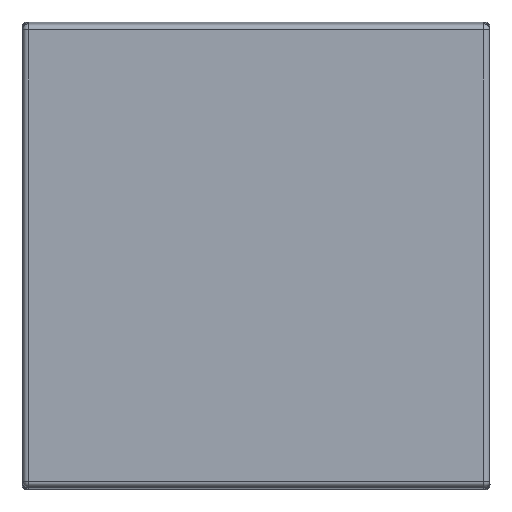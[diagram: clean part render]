
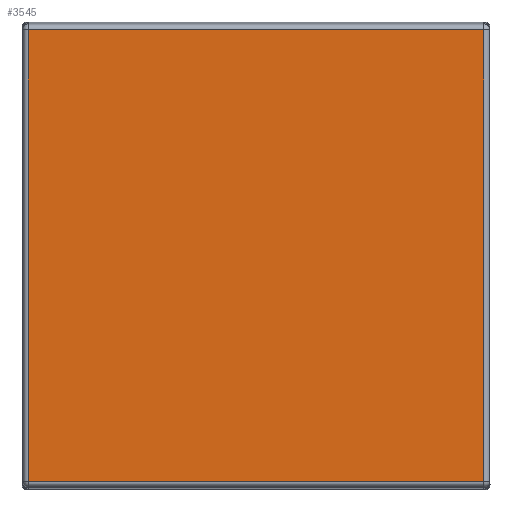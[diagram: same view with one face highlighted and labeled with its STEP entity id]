
A CAD part, top view. The second image highlights one B-rep face of the part: STEP entity #3545.
In plain terms, the highlighted planar face has unit normal (0, 0, 1).
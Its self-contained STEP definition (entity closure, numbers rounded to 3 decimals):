
#211=PLANE('',#3849);
#386=FACE_OUTER_BOUND('',#580,.T.);
#580=EDGE_LOOP('',(#3140,#3141,#3142,#3143));
#859=LINE('',#6629,#1179);
#860=LINE('',#6636,#1180);
#861=LINE('',#6646,#1181);
#862=LINE('',#6649,#1182);
#1179=VECTOR('',#4611,10.);
#1180=VECTOR('',#4620,10.);
#1181=VECTOR('',#4639,10.);
#1182=VECTOR('',#4644,10.);
#1651=VERTEX_POINT('',#6600);
#1659=VERTEX_POINT('',#6627);
#1660=VERTEX_POINT('',#6633);
#1661=VERTEX_POINT('',#6635);
#2121=EDGE_CURVE('',#1651,#1659,#859,.T.);
#2124=EDGE_CURVE('',#1661,#1660,#860,.T.);
#2129=EDGE_CURVE('',#1659,#1661,#861,.T.);
#2130=EDGE_CURVE('',#1660,#1651,#862,.T.);
#3140=ORIENTED_EDGE('',*,*,#2124,.T.);
#3141=ORIENTED_EDGE('',*,*,#2130,.T.);
#3142=ORIENTED_EDGE('',*,*,#2121,.T.);
#3143=ORIENTED_EDGE('',*,*,#2129,.T.);
#3545=ADVANCED_FACE('',(#386),#211,.T.);
#3849=AXIS2_PLACEMENT_3D('',#6733,#4736,#4737);
#4611=DIRECTION('',(1.,0.,0.));
#4620=DIRECTION('',(-1.,0.,0.));
#4639=DIRECTION('',(0.,1.,0.));
#4644=DIRECTION('',(0.,-1.,0.));
#4736=DIRECTION('center_axis',(0.,0.,
1.));
#4737=DIRECTION('ref_axis',(1.,0.,0.));
#6600=CARTESIAN_POINT('',(-39.5,-39.168,20.));
#6627=CARTESIAN_POINT('',(39.5,-39.168,20.));
#6629=CARTESIAN_POINT('',(-39.5,-39.168,20.));
#6633=CARTESIAN_POINT('',(-39.5,39.168,20.));
#6635=CARTESIAN_POINT('',(39.5,39.168,20.));
#6636=CARTESIAN_POINT('',(39.5,39.168,20.));
#6646=CARTESIAN_POINT('',(39.5,-39.168,20.));
#6649=CARTESIAN_POINT('',(-39.5,39.168,20.));
#6733=CARTESIAN_POINT('Origin',(0.,-39.168,
20.));
